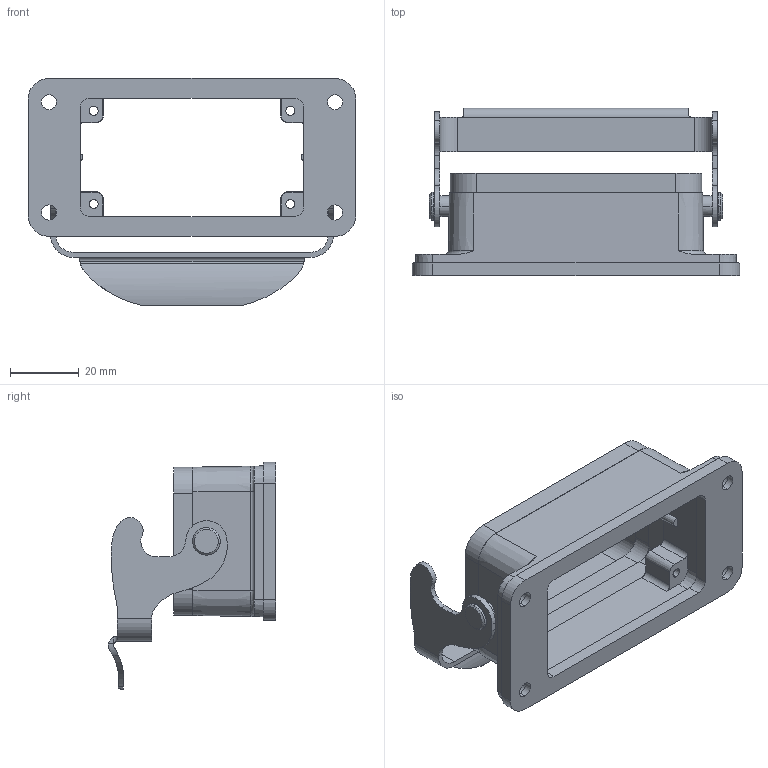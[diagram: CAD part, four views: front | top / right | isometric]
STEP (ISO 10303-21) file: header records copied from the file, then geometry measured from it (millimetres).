
FILE_DESCRIPTION (( 'STEP AP203' ), '1' );
FILE_NAME ('H10B-AG-LB.STEP', '2020-11-21T03:32:16', ( '' ), ( '' ), 'SwSTEP 2.0', 'SolidWorks 2016', '' );
FILE_SCHEMA (( 'CONFIG_CONTROL_DESIGN' ));
Length unit declared in the file: millimetre
Products named in the file (6): H10B-AG-LB; m01007-2; 10bbaobianmifengdian; 10bmifengquan; 10bbuxiugangdankou; maoding
Assembly tree (6 placements, depth 2):
  H10B-AG-LB
    m01007-2
    10bbaobianmifengdian
    10bmifengquan
    10bbuxiugangdankou
    maoding  x2
Bounding box: 95 x 48.54 x 65.9 mm (x, y, z)
Volume: 35338 mm3; surface area: 32446.8 mm2
Topology: 6 solids, 6 shells, 370 faces, 980 edges, 641 vertices
Faces by surface type: cylinder 156, plane 133, cone 57, bspline 24
Entity records: 12577 total; most frequent: CARTESIAN_POINT 3089, DIRECTION 1881, ORIENTED_EDGE 1860, EDGE_CURVE 930, AXIS2_PLACEMENT_3D 701, VERTEX_POINT 607, LINE 479, VECTOR 479
